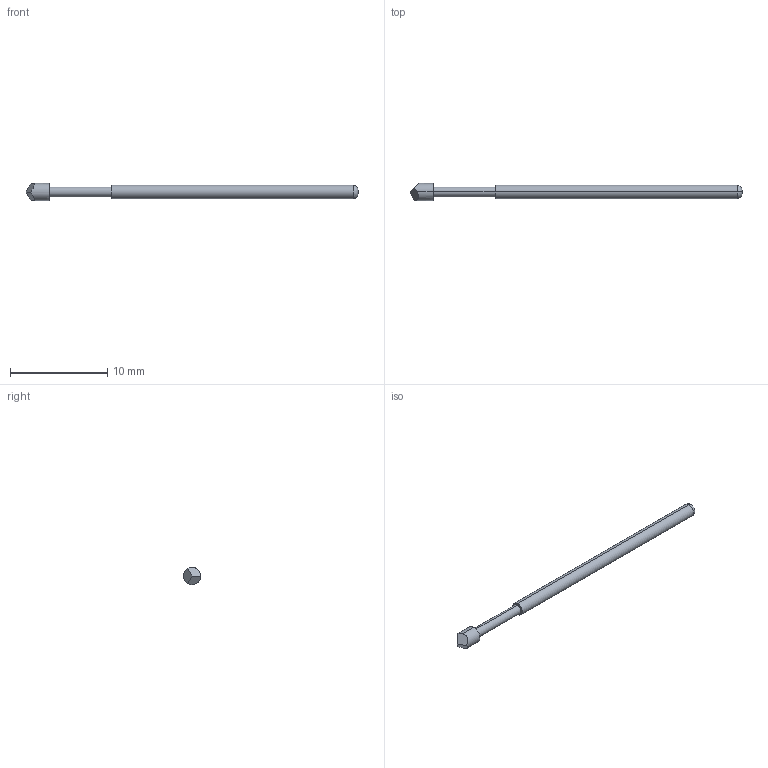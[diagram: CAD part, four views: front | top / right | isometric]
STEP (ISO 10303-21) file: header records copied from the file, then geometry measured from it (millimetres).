
FILE_DESCRIPTION (( 'STEP AP203' ), '1' );
FILE_NAME ('IP130B-1P.STEP', '2014-08-22T05:48:33', ( '' ), ( '' ), 'SwSTEP 2.0', 'SolidWorks 2011', '' );
FILE_SCHEMA (( 'CONFIG_CONTROL_DESIGN' ));
Length unit declared in the file: millimetre
Products named in the file (1): IP130B-1P
Bounding box: 34.16 x 1.77 x 1.77 mm (x, y, z)
Volume: 47 mm3; surface area: 144.9 mm2
Topology: 1 solids, 1 shells, 14 faces, 28 edges, 18 vertices
Faces by surface type: cylinder 6, plane 6, torus 2
Entity records: 447 total; most frequent: CARTESIAN_POINT 76, DIRECTION 67, ORIENTED_EDGE 56, AXIS2_PLACEMENT_3D 29, EDGE_CURVE 28, VERTEX_POINT 18, EDGE_LOOP 16, FACE_OUTER_BOUND 14
